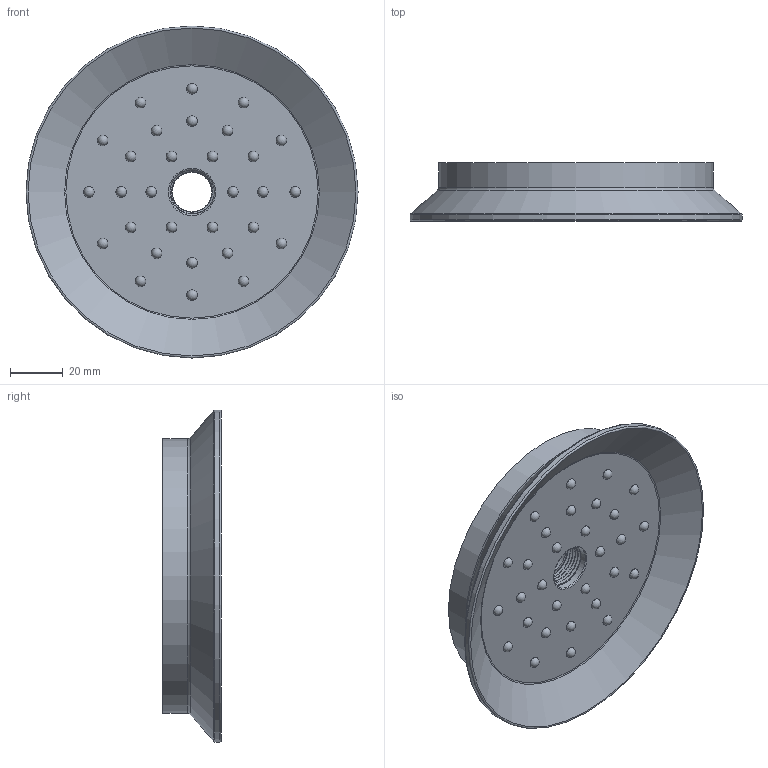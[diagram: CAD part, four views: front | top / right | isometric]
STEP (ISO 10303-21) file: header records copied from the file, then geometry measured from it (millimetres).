
FILE_DESCRIPTION (( 'STEP AP203' ), '1' );
FILE_NAME ('7SB 125--A.STEP', '2022-02-15T13:38:39', ( '' ), ( '' ), 'SwSTEP 2.0', 'SolidWorks 2021', '' );
FILE_SCHEMA (( 'CONFIG_CONTROL_DESIGN' ));
Length unit declared in the file: millimetre
Products named in the file (1): 7SB 125--A
Bounding box: 125.51 x 22.07 x 125.51 mm (x, y, z)
Volume: 128167.9 mm3; surface area: 62281.6 mm2
Topology: 2 solids, 2 shells, 57 faces, 202 edges, 121 vertices
Faces by surface type: sphere 30, cylinder 7, plane 6, cone 6, torus 5, bspline 3
Full cylindrical faces by diameter (mm): 15 x1, 17 x1, 93 x2, 103.79 x1, 125.508 x1
Entity records: 3416 total; most frequent: CARTESIAN_POINT 2348, DIRECTION 218, ORIENTED_EDGE 136, AXIS2_PLACEMENT_3D 109, EDGE_LOOP 108, EDGE_CURVE 68, FACE_OUTER_BOUND 68, VERTEX_POINT 62
